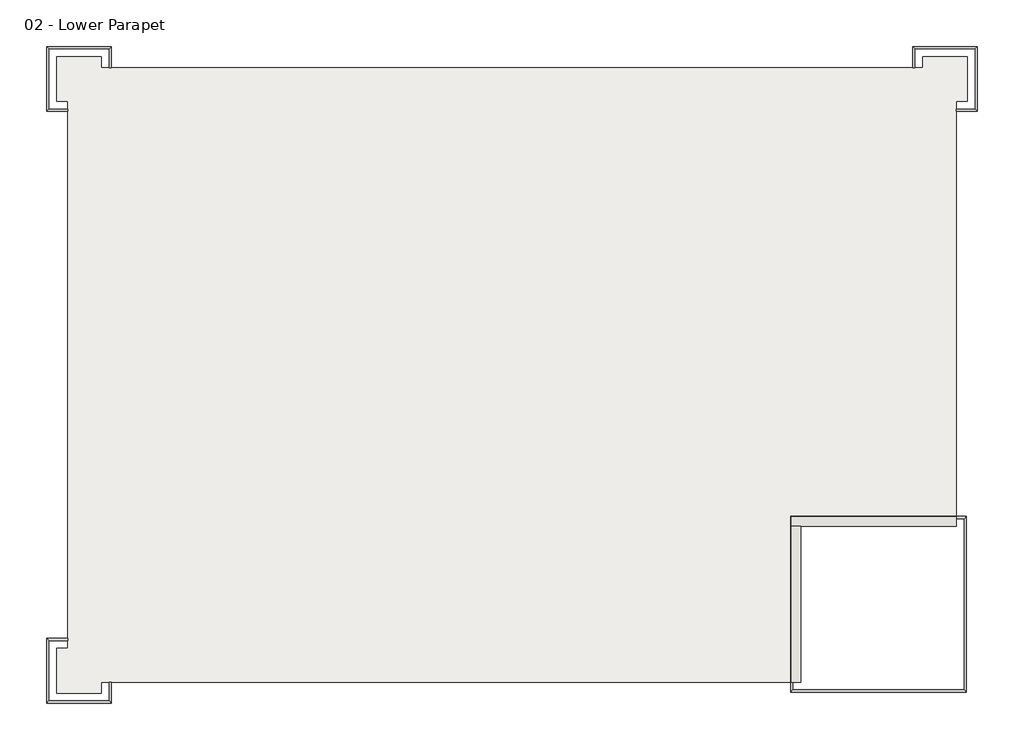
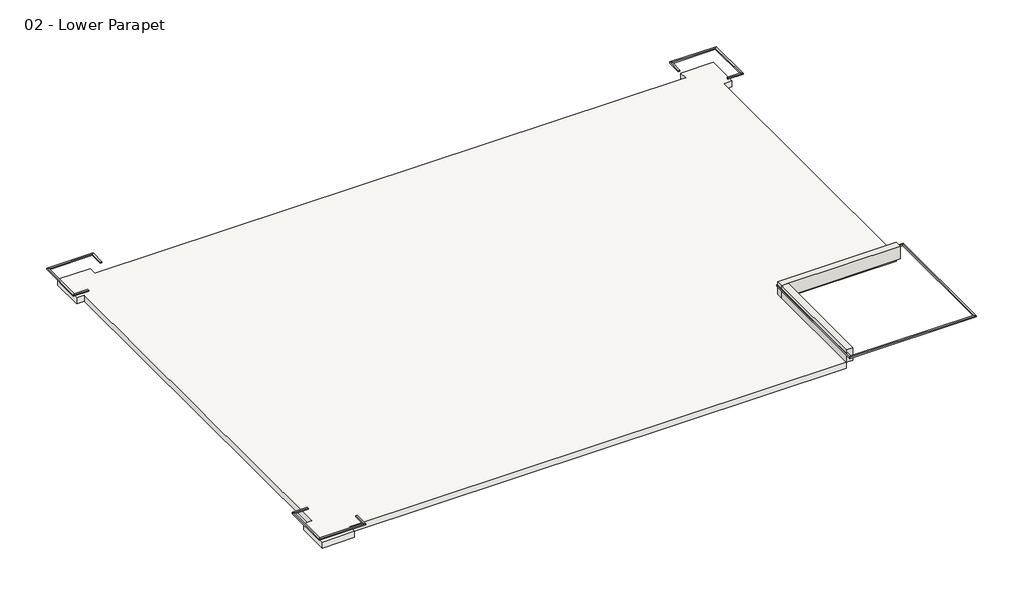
# One storey: 16 proxies, 2 walls, 1 roof.
"""IFC4 building model written with IfcOpenShell, lengths in millimetres."""

from ifc_helpers import new_model, si_unit, frame, origin, place, context, project, spatial, polyline, outline, extrude, faceted_brep, element, save

model = new_model("IFC4")

# Units and contexts
model_context = context("Model", 3, world=origin())
ifc_project = project(units=[si_unit("LENGTHUNIT", "METRE", prefix="MILLI")], contexts=[model_context])

# Site, building, storey
site = spatial("IfcSite", under=ifc_project)
building = spatial("IfcBuilding", under=site)
storey = spatial("IfcBuildingStorey", under=building, Name="02 - Lower Parapet", Elevation=7500.0)

# Proxies
placement = place(None, origin())
element("IfcBuildingElementProxy", 1, Name="Reveals", at=placement, inside=storey, context=model_context, shape_type="SweptSolid", body=[
    extrude(outline(polyline([(-20106.4727721, -13977.9313057), (-20003.9727721, -13977.9313057), (-20003.9727721, -14934.2313057), (-20106.4727721, -14831.7313057), (-20106.4727721, -13977.9313057)])), frame((0.0, 0.0, 7700.0), z_axis=(0.0, 0.0, 1.0), x_axis=(1.0, 0.0, 0.0)), (0.0, 0.0, 1.0), 75.0),
])
element("IfcBuildingElementProxy", 2, Name="Reveals", at=placement, inside=storey, context=model_context, shape_type="SweptSolid", body=[
    extrude(outline(polyline([(-20106.4727721, -14831.7313057), (-20003.9727721, -14934.2313057), (-22946.9727721, -14934.2313057), (-22844.4727721, -14831.7313057), (-20106.4727721, -14831.7313057)])), frame((0.0, 0.0, 7700.0), z_axis=(0.0, 0.0, 1.0), x_axis=(1.0, 0.0, 0.0)), (0.0, 0.0, 1.0), 75.0),
])
element("IfcBuildingElementProxy", 3, Name="Reveals", at=placement, inside=storey, context=model_context, shape_type="SweptSolid", body=[
    extrude(outline(polyline([(-22844.4727721, -14831.7313057), (-22946.9727721, -14934.2313057), (-22946.9727721, -11991.2313057), (-22844.4727721, -12093.7313057), (-22844.4727721, -14831.7313057)])), frame((0.0, 0.0, 7700.0), z_axis=(0.0, 0.0, 1.0), x_axis=(1.0, 0.0, 0.0)), (0.0, 0.0, 1.0), 75.0),
])
element("IfcBuildingElementProxy", 4, Name="Reveals", at=placement, inside=storey, context=model_context, shape_type="SweptSolid", body=[
    extrude(outline(polyline([(-22844.4727721, -12093.7313057), (-22946.9727721, -11991.2313057), (-21990.4727721, -11991.2313057), (-21990.4727721, -12093.7313057), (-22844.4727721, -12093.7313057)])), frame((0.0, 0.0, 7700.0), z_axis=(0.0, 0.0, 1.0), x_axis=(1.0, 0.0, 0.0)), (0.0, 0.0, 1.0), 75.0),
])
element("IfcBuildingElementProxy", 5, Name="Reveals", at=placement, inside=storey, context=model_context, shape_type="SweptSolid", body=[
    extrude(outline(polyline([(-21990.4727721, 12030.0686943), (-21990.4727721, 11927.5686943), (-22946.9727721, 11927.5686943), (-22844.4727721, 12030.0686943), (-21990.4727721, 12030.0686943)])), frame((0.0, 0.0, 7700.0), z_axis=(0.0, 0.0, 1.0), x_axis=(1.0, 0.0, 0.0)), (0.0, 0.0, 1.0), 75.0),
])
element("IfcBuildingElementProxy", 6, Name="Reveals", at=placement, inside=storey, context=model_context, shape_type="SweptSolid", body=[
    extrude(outline(polyline([(-22844.4727721, 12030.0686943), (-22946.9727721, 11927.5686943), (-22946.9727721, 14870.5686943), (-22844.4727721, 14768.0686943), (-22844.4727721, 12030.0686943)])), frame((0.0, 0.0, 7700.0), z_axis=(0.0, 0.0, 1.0), x_axis=(1.0, 0.0, 0.0)), (0.0, 0.0, 1.0), 75.0),
])
element("IfcBuildingElementProxy", 7, Name="Reveals", at=placement, inside=storey, context=model_context, shape_type="SweptSolid", body=[
    extrude(outline(polyline([(-22844.4727721, 14768.0686943), (-22946.9727721, 14870.5686943), (-20003.9727721, 14870.5686943), (-20106.4727721, 14768.0686943), (-22844.4727721, 14768.0686943)])), frame((0.0, 0.0, 7700.0), z_axis=(0.0, 0.0, 1.0), x_axis=(1.0, 0.0, 0.0)), (0.0, 0.0, 1.0), 75.0),
])
element("IfcBuildingElementProxy", 8, Name="Reveals", at=placement, inside=storey, context=model_context, shape_type="SweptSolid", body=[
    extrude(outline(polyline([(-20106.4727721, 14768.0686943), (-20003.9727721, 14870.5686943), (-20003.9727721, 13914.0686943), (-20106.4727721, 13914.0686943), (-20106.4727721, 14768.0686943)])), frame((0.0, 0.0, 7700.0), z_axis=(0.0, 0.0, 1.0), x_axis=(1.0, 0.0, 0.0)), (0.0, 0.0, 1.0), 75.0),
])
element("IfcBuildingElementProxy", 9, Name="Reveals", at=placement, inside=storey, context=model_context, shape_type="SweptSolid", body=[
    extrude(outline(polyline([(16467.5272279, 13914.0686943), (16365.0272279, 13914.0686943), (16365.0272279, 14870.5686943), (16467.5272279, 14768.0686943), (16467.5272279, 13914.0686943)])), frame((0.0, 0.0, 7700.0), z_axis=(0.0, 0.0, 1.0), x_axis=(1.0, 0.0, 0.0)), (0.0, 0.0, 1.0), 75.0),
])
element("IfcBuildingElementProxy", 10, Name="Reveals", at=placement, inside=storey, context=model_context, shape_type="SweptSolid", body=[
    extrude(outline(polyline([(16467.5272279, 14768.0686943), (16365.0272279, 14870.5686943), (19308.0272279, 14870.5686943), (19205.5272279, 14768.0686943), (16467.5272279, 14768.0686943)])), frame((0.0, 0.0, 7700.0), z_axis=(0.0, 0.0, 1.0), x_axis=(1.0, 0.0, 0.0)), (0.0, 0.0, 1.0), 75.0),
])
element("IfcBuildingElementProxy", 11, Name="Reveals", at=placement, inside=storey, context=model_context, shape_type="SweptSolid", body=[
    extrude(outline(polyline([(19205.5272279, 14768.0686943), (19308.0272279, 14870.5686943), (19308.0272279, 11927.5686943), (19205.5272279, 12030.0686943), (19205.5272279, 14768.0686943)])), frame((0.0, 0.0, 7700.0), z_axis=(0.0, 0.0, 1.0), x_axis=(1.0, 0.0, 0.0)), (0.0, 0.0, 1.0), 75.0),
])
element("IfcBuildingElementProxy", 12, Name="Reveals", at=placement, inside=storey, context=model_context, shape_type="SweptSolid", body=[
    extrude(outline(polyline([(19205.5272279, 12030.0686943), (19308.0272279, 11927.5686943), (18351.5272279, 11927.5686943), (18351.5272279, 12030.0686943), (19205.5272279, 12030.0686943)])), frame((0.0, 0.0, 7700.0), z_axis=(0.0, 0.0, 1.0), x_axis=(1.0, 0.0, 0.0)), (0.0, 0.0, 1.0), 75.0),
])
element("IfcBuildingElementProxy", 13, Name="Reveals", at=placement, inside=storey, context=model_context, shape_type="SweptSolid", body=[
    extrude(outline(polyline([(18705.5272279, -6556.9313057), (18808.0272279, -6454.4313057), (18808.0272279, -14434.4313057), (18705.5272279, -14331.9313057), (18705.5272279, -6556.9313057)])), frame((0.0, 0.0, 7700.0), z_axis=(0.0, 0.0, 1.0), x_axis=(1.0, 0.0, 0.0)), (0.0, 0.0, 1.0), 75.0),
])
element("IfcBuildingElementProxy", 14, Name="Reveals", at=placement, inside=storey, context=model_context, shape_type="SweptSolid", body=[
    extrude(outline(polyline([(18705.5272279, -14331.9313057), (18808.0272279, -14434.4313057), (10828.0272279, -14434.4313057), (10930.5272279, -14331.9313057), (18705.5272279, -14331.9313057)])), frame((0.0, 0.0, 7700.0), z_axis=(0.0, 0.0, 1.0), x_axis=(1.0, 0.0, 0.0)), (0.0, 0.0, 1.0), 75.0),
])
element("IfcBuildingElementProxy", 15, Name="Reveals", at=placement, inside=storey, context=model_context, shape_type="SweptSolid", body=[
    extrude(outline(polyline([(18808.0272279, -6454.4313057), (18705.5272279, -6556.9313057), (10930.5272279, -6556.9313057), (10828.0272279, -6454.4313057), (18808.0272279, -6454.4313057)])), frame((0.0, 0.0, 7700.0), z_axis=(0.0, 0.0, 1.0), x_axis=(1.0, 0.0, 0.0)), (0.0, 0.0, 1.0), 75.0),
])
element("IfcBuildingElementProxy", 16, Name="Reveals", at=placement, inside=storey, context=model_context, shape_type="SweptSolid", body=[
    extrude(outline(polyline([(10828.0272279, -6454.4313057), (10930.5272279, -6556.9313057), (10930.5272279, -14331.9313057), (10828.0272279, -14434.4313057), (10828.0272279, -6454.4313057)])), frame((0.0, 0.0, 7700.0), z_axis=(0.0, 0.0, 1.0), x_axis=(1.0, 0.0, 0.0)), (0.0, 0.0, 1.0), 75.0),
])

# Roof
element("IfcRoof", 17, ObjectType="Generic - 400mm", at=placement, inside=storey, context=model_context, shape_type="SweptSolid", body=[
    extrude(outline(polyline([(-20460.4727721, 13914.0686943), (16821.5272279, 13914.0686943), (16821.5272279, 14414.0686943), (18851.5272279, 14414.0686943), (18851.5272279, 12384.0686943), (18351.5272279, 12384.0686943), (18351.5272279, -6481.9313057), (10855.5272279, -6481.9313057), (10855.5272279, -13977.9313057), (-20460.4727721, -13977.9313057), (-20460.4727721, -14477.7313057), (-22490.4727721, -14477.7313057), (-22490.4727721, -12447.7313057), (-21990.4727721, -12447.7313057), (-21990.4727721, 12384.0686943), (-22490.4727721, 12384.0686943), (-22490.4727721, 14414.0686943), (-20460.4727721, 14414.0686943), (-20460.4727721, 13914.0686943)])), frame((0.0, 0.0, 6750.0), z_axis=(0.0, 0.0, 1.0), x_axis=(1.0, 0.0, 0.0)), (0.0, 0.0, 1.0), 400.0),
])

# Walls
element("IfcWall", 18, ObjectType="Exterior - Render on Brick on Block @ Entry", at=placement, inside=storey, context=model_context, shape_type="Brep", body=[
    faceted_brep([(18351.5272279, -6481.9313057, 7150.0), (10855.5272279, -6481.9313057, 7150.0), (10855.5272279, -6481.9313057, 7700.0), (18351.5272279, -6481.9313057, 7700.0), (18351.5272279, -6481.9313057, 7500.0), (10855.5272279, -6481.9313057, 8000.0), (18351.5272279, -6481.9313057, 8000.0), (18351.5272279, -6481.9313057, 7775.0), (10855.5272279, -6481.9313057, 7775.0), (10855.5272279, -6910.9313057, 7150.0), (11284.5272279, -6910.9313057, 7150.0), (18351.5272279, -6910.9313057, 7150.0), (18351.5272279, -6910.9313057, 8000.0), (11284.5272279, -6910.9313057, 8000.0), (10855.5272279, -6910.9313057, 8000.0), (10855.5272279, -6910.9313057, 7775.0), (10930.5272279, -6910.9313057, 7775.0), (10930.5272279, -6910.9313057, 7700.0), (10855.5272279, -6910.9313057, 7700.0), (10930.5272279, -6556.9313057, 7700.0), (10930.5272279, -6556.9313057, 7775.0), (18351.5272279, -6556.9313057, 7775.0), (18351.5272279, -6556.9313057, 7700.0)], [[[0, 1, 2, 3, 4]], [[5, 6, 7, 8]], [[9, 10, 11, 12, 13, 14, 15, 16, 17, 18]], [[1, 0, 11, 10, 9]], [[6, 5, 14, 13, 12]], [[19, 20, 21, 22]], [[17, 19, 22, 3, 2, 18]], [[21, 20, 16, 15, 8, 7]], [[1, 9, 18, 2]], [[14, 5, 8, 15]], [[20, 19, 17, 16]], [[6, 12, 11, 0, 4, 3, 22, 21, 7]]]),
])
element("IfcWall", 19, ObjectType="Exterior - Render on Brick on Block @ Entry", at=placement, inside=storey, context=model_context, shape_type="Brep", body=[
    faceted_brep([(10855.5272279, -6910.9313057, 7150.0), (10855.5272279, -13977.9313057, 7150.0), (10855.5272279, -13977.9313057, 7500.0), (10855.5272279, -13977.9313057, 7700.0), (10855.5272279, -6910.9313057, 7700.0), (10855.5272279, -13977.9313057, 8000.0), (10855.5272279, -6910.9313057, 8000.0), (10855.5272279, -6910.9313057, 7775.0), (10855.5272279, -13977.9313057, 7775.0), (11284.5272279, -13977.9313057, 7150.0), (11284.5272279, -6910.9313057, 7150.0), (11284.5272279, -6910.9313057, 8000.0), (11284.5272279, -13977.9313057, 8000.0), (10930.5272279, -13977.9313057, 7775.0), (10930.5272279, -6910.9313057, 7775.0), (10930.5272279, -6910.9313057, 7700.0), (10930.5272279, -13977.9313057, 7700.0)], [[[0, 1, 2, 3, 4]], [[5, 6, 7, 8]], [[9, 10, 11, 12]], [[1, 0, 10, 9]], [[6, 5, 12, 11]], [[13, 14, 15, 16]], [[6, 11, 10, 0, 4, 15, 14, 7]], [[16, 15, 4, 3]], [[14, 13, 8, 7]], [[1, 9, 12, 5, 8, 13, 16, 3, 2]]]),
])

save(model, "model.ifc")
